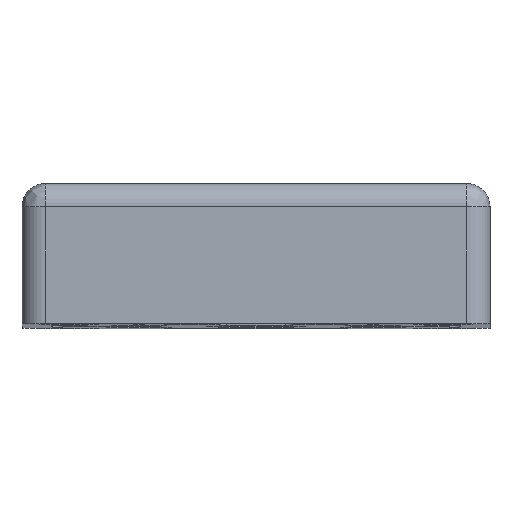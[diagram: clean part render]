
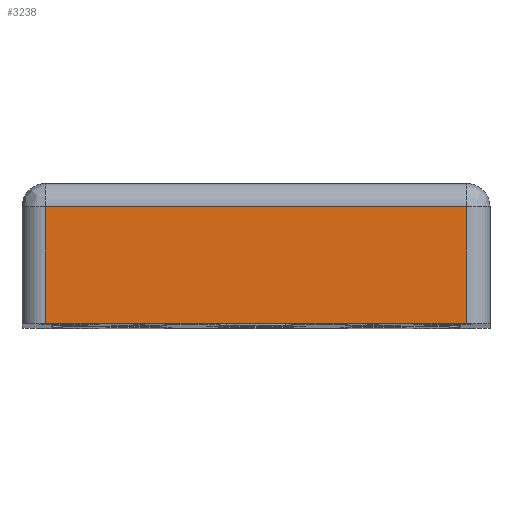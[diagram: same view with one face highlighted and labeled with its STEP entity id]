
A CAD part, top view. The second image highlights one B-rep face of the part: STEP entity #3238.
In plain terms, the highlighted planar face has unit normal (0, 0.009, 1).
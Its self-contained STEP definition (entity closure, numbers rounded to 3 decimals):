
#21 = ORIENTED_EDGE ( 'NONE', *, *, #5700, .T. ) ;
#165 = EDGE_CURVE ( 'NONE', #3295, #2873, #3636, .T. ) ;
#561 = PLANE ( 'NONE',  #5536 ) ;
#589 = CARTESIAN_POINT ( 'NONE',  ( -20., 6.01, 26.282 ) ) ;
#631 = CARTESIAN_POINT ( 'NONE',  ( -18., -5.989, 26.387 ) ) ;
#1033 = EDGE_LOOP ( 'NONE', ( #1643, #2122, #21, #2698 ) ) ;
#1153 = VECTOR ( 'NONE', #5185, 1000. ) ;
#1599 = VERTEX_POINT ( 'NONE', #5171 ) ;
#1643 = ORIENTED_EDGE ( 'NONE', *, *, #165, .F. ) ;
#1938 = FACE_OUTER_BOUND ( 'NONE', #1033, .T. ) ;
#2122 = ORIENTED_EDGE ( 'NONE', *, *, #6059, .F. ) ;
#2194 = LINE ( 'NONE', #3673, #1153 ) ;
#2431 = CARTESIAN_POINT ( 'NONE',  ( 18., 4.01, 26.299 ) ) ;
#2630 = EDGE_CURVE ( 'NONE', #2873, #1599, #2927, .T. ) ;
#2696 = DIRECTION ( 'NONE',  ( 0., 1., -0.009 ) ) ;
#2698 = ORIENTED_EDGE ( 'NONE', *, *, #2630, .F. ) ;
#2873 = VERTEX_POINT ( 'NONE', #2431 ) ;
#2927 = LINE ( 'NONE', #3506, #3280 ) ;
#3153 = DIRECTION ( 'NONE',  ( 1., 0., 0. ) ) ;
#3186 = LINE ( 'NONE', #5145, #5051 ) ;
#3217 = VECTOR ( 'NONE', #3153, 1000. ) ;
#3238 = ADVANCED_FACE ( 'NONE', ( #1938 ), #561, .F. ) ;
#3280 = VECTOR ( 'NONE', #4406, 1000. ) ;
#3295 = VERTEX_POINT ( 'NONE', #4960 ) ;
#3506 = CARTESIAN_POINT ( 'NONE',  ( 18., 6.01, 26.282 ) ) ;
#3636 = LINE ( 'NONE', #5209, #3217 ) ;
#3673 = CARTESIAN_POINT ( 'NONE',  ( -20., -5.989, 26.387 ) ) ;
#3674 = VERTEX_POINT ( 'NONE', #631 ) ;
#4406 = DIRECTION ( 'NONE',  ( 0., -1., 0.009 ) ) ;
#4509 = DIRECTION ( 'NONE',  ( 0., 1., -0.009 ) ) ;
#4960 = CARTESIAN_POINT ( 'NONE',  ( -18., 4.01, 26.299 ) ) ;
#5051 = VECTOR ( 'NONE', #2696, 1000. ) ;
#5145 = CARTESIAN_POINT ( 'NONE',  ( -18., 6.01, 26.282 ) ) ;
#5171 = CARTESIAN_POINT ( 'NONE',  ( 18., -5.989, 26.387 ) ) ;
#5185 = DIRECTION ( 'NONE',  ( 1., 0., 0. ) ) ;
#5209 = CARTESIAN_POINT ( 'NONE',  ( -20., 4.01, 26.299 ) ) ;
#5483 = DIRECTION ( 'NONE',  ( 0., -0.009, -1. ) ) ;
#5536 = AXIS2_PLACEMENT_3D ( 'NONE', #589, #5483, #4509 ) ;
#5700 = EDGE_CURVE ( 'NONE', #3674, #1599, #2194, .T. ) ;
#6059 = EDGE_CURVE ( 'NONE', #3674, #3295, #3186, .T. ) ;
